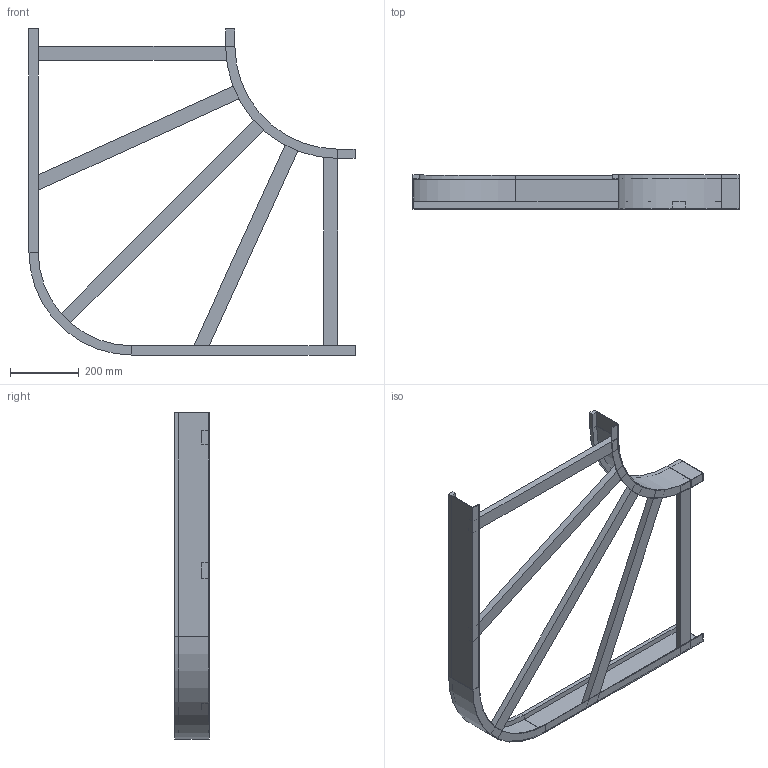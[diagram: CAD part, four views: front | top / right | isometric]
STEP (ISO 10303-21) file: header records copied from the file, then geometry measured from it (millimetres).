
FILE_DESCRIPTION (( 'STEP AP214' ), '1' );
FILE_NAME ('B2_10B3D600.step', '2025-02-21T15:23:38', ( '' ), ( '' ), 'SwSTEP 2.0', 'SolidWorks 2023', '' );
FILE_SCHEMA (( 'AUTOMOTIVE_DESIGN' ));
Length unit declared in the file: millimetre
Products named in the file (6): B2_10B3D600; B2_LONGH.ESTERNO 90°_H100_R300+600; TRAVERSINO_600; TRAVERSINO_700_SCANTONATO; B2_LONGH.INTERNO 90°_H100_R300; TRAVERSINO_L843
Assembly tree (7 placements, depth 2):
  B2_10B3D600
    B2_LONGH.INTERNO 90°_H100_R300
    B2_LONGH.ESTERNO 90°_H100_R300+600
    TRAVERSINO_600  x2
    TRAVERSINO_700_SCANTONATO  x2
    TRAVERSINO_L843
Bounding box: 950 x 100 x 950 mm (x, y, z)
Volume: 3793830.2 mm3; surface area: 1092043.2 mm2
Topology: 7 solids, 7 shells, 82 faces, 172 edges, 104 vertices
Faces by surface type: plane 74, cylinder 8
Entity records: 2015 total; most frequent: DIRECTION 324, CARTESIAN_POINT 316, ORIENTED_EDGE 296, EDGE_CURVE 148, VECTOR 132, LINE 132, AXIS2_PLACEMENT_3D 96, VERTEX_POINT 88
